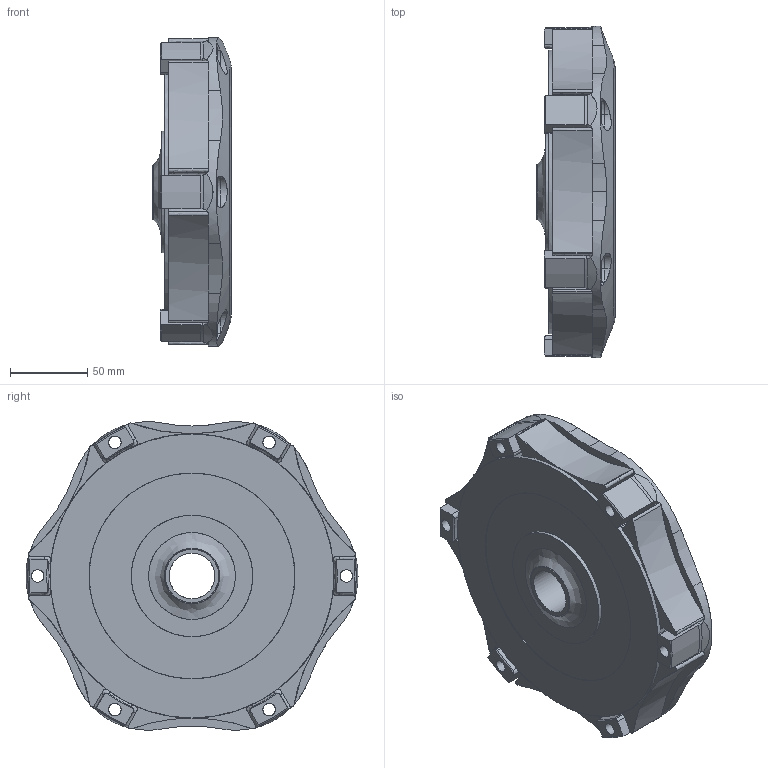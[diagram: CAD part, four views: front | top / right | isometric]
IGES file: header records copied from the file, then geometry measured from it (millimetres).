
Start section: C
Global section: file name: 66-503HG-VTV, FH BOLTS.igs; native system: By Siemens PLM Incorporated; preprocessor: XPlus GENERIC/IGES 19.0.9; author: Author; organization: Title; date: 20170915.112840; units: millimetre
Bounding box: 50.67 x 215.2 x 199.95 mm (x, y, z)
Surface area: 155248.8 mm2 (no closed solid volume)
Topology: 0 solids, 0 shells, 642 faces, 3652 edges, 3652 vertices
Faces by surface type: bspline 642
